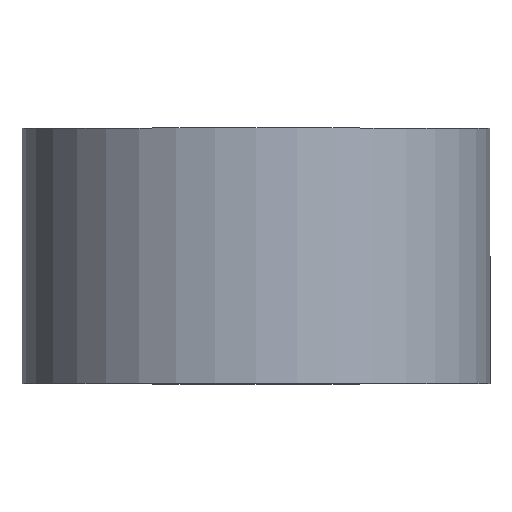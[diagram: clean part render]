
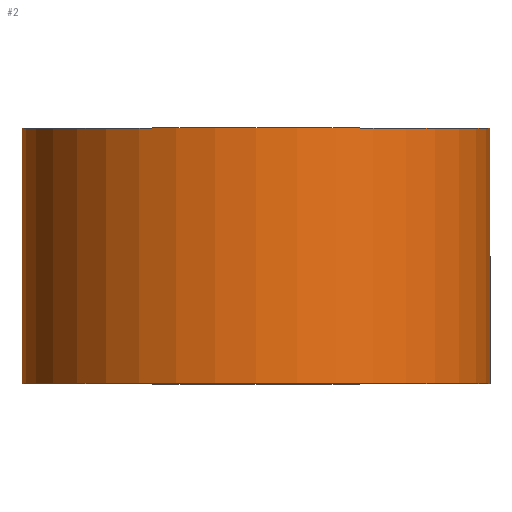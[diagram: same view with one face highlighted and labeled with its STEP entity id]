
A CAD part, top view. The second image highlights one B-rep face of the part: STEP entity #2.
In plain terms, the highlighted cylindrical face has radius 27.5 mm (diameter 55 mm), a partial arc.
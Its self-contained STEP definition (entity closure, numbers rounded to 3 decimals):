
#2 = ADVANCED_FACE ( 'NONE', ( #48 ), #132, .T. ) ;
#4 = DIRECTION ( 'NONE',  ( 0., 1., 0. ) ) ;
#16 = ORIENTED_EDGE ( 'NONE', *, *, #153, .T. ) ;
#25 = AXIS2_PLACEMENT_3D ( 'NONE', #34, #4, #146 ) ;
#34 = CARTESIAN_POINT ( 'NONE',  ( 0., 0., 0. ) ) ;
#40 = CARTESIAN_POINT ( 'NONE',  ( 27.5, 0., 0. ) ) ;
#48 = FACE_OUTER_BOUND ( 'NONE', #254, .T. ) ;
#51 = VECTOR ( 'NONE', #260, 1000. ) ;
#61 = AXIS2_PLACEMENT_3D ( 'NONE', #84, #150, #288 ) ;
#68 = CARTESIAN_POINT ( 'NONE',  ( -27.5, 30., 0. ) ) ;
#81 = CARTESIAN_POINT ( 'NONE',  ( -27.5, 0., 0. ) ) ;
#84 = CARTESIAN_POINT ( 'NONE',  ( 0., 0., 0. ) ) ;
#86 = CARTESIAN_POINT ( 'NONE',  ( 27.5, 30., 0. ) ) ;
#95 = CIRCLE ( 'NONE', #243, 27.5 ) ;
#106 = VERTEX_POINT ( 'NONE', #81 ) ;
#121 = ORIENTED_EDGE ( 'NONE', *, *, #168, .T. ) ;
#127 = EDGE_CURVE ( 'NONE', #106, #230, #297, .T. ) ;
#132 = CYLINDRICAL_SURFACE ( 'NONE', #25, 27.5 ) ;
#146 = DIRECTION ( 'NONE',  ( -1., 0., 0. ) ) ;
#148 = ORIENTED_EDGE ( 'NONE', *, *, #245, .F. ) ;
#150 = DIRECTION ( 'NONE',  ( 0., 1., 0. ) ) ;
#153 = EDGE_CURVE ( 'NONE', #264, #294, #234, .T. ) ;
#164 = CARTESIAN_POINT ( 'NONE',  ( 0., 30., 0. ) ) ;
#166 = CIRCLE ( 'NONE', #61, 27.5 ) ;
#168 = EDGE_CURVE ( 'NONE', #106, #264, #166, .T. ) ;
#170 = VECTOR ( 'NONE', #177, 1000. ) ;
#177 = DIRECTION ( 'NONE',  ( 0., 1., 0. ) ) ;
#228 = DIRECTION ( 'NONE',  ( 0., 1., 0. ) ) ;
#230 = VERTEX_POINT ( 'NONE', #68 ) ;
#234 = LINE ( 'NONE', #40, #170 ) ;
#243 = AXIS2_PLACEMENT_3D ( 'NONE', #164, #228, #295 ) ;
#245 = EDGE_CURVE ( 'NONE', #230, #294, #95, .T. ) ;
#247 = CARTESIAN_POINT ( 'NONE',  ( -27.5, 0., 0. ) ) ;
#251 = CARTESIAN_POINT ( 'NONE',  ( 27.5, 0., 0. ) ) ;
#254 = EDGE_LOOP ( 'NONE', ( #121, #16, #148, #299 ) ) ;
#260 = DIRECTION ( 'NONE',  ( 0., 1., 0. ) ) ;
#264 = VERTEX_POINT ( 'NONE', #251 ) ;
#288 = DIRECTION ( 'NONE',  ( -1., 0., 0. ) ) ;
#294 = VERTEX_POINT ( 'NONE', #86 ) ;
#295 = DIRECTION ( 'NONE',  ( -1., 0., 0. ) ) ;
#297 = LINE ( 'NONE', #247, #51 ) ;
#299 = ORIENTED_EDGE ( 'NONE', *, *, #127, .F. ) ;
